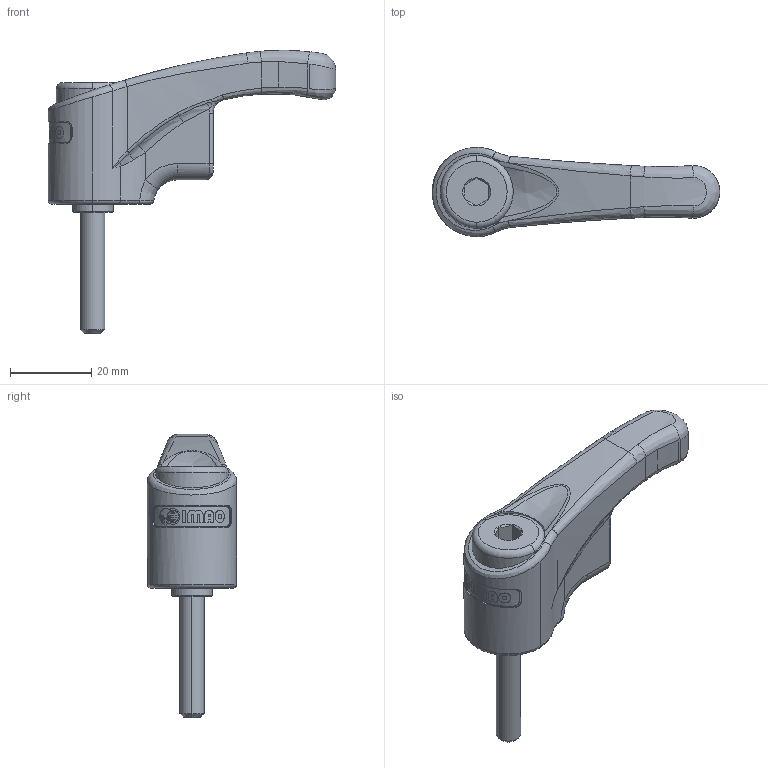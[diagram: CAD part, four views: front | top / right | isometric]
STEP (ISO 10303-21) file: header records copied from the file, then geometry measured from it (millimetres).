
FILE_DESCRIPTION (( 'STEP AP203' ), '1' );
FILE_NAME ('atcl6x30-og.STEP', '2021-10-21T07:38:16', ( '' ), ( '' ), 'SwSTEP 2.0', 'SolidWorks 2020', '' );
FILE_SCHEMA (( 'CONFIG_CONTROL_DESIGN' ));
Length unit declared in the file: millimetre
Products named in the file (1): atcl6x30-og
Bounding box: 71 x 22 x 70 mm (x, y, z)
Volume: 23825.9 mm3; surface area: 6566.8 mm2
Topology: 1 solids, 1 shells, 280 faces, 684 edges, 426 vertices
Faces by surface type: plane 93, bspline 86, cylinder 68, cone 20, torus 13
Entity records: 13143 total; most frequent: CARTESIAN_POINT 7247, ORIENTED_EDGE 1356, DIRECTION 958, EDGE_CURVE 678, VERTEX_POINT 426, AXIS2_PLACEMENT_3D 344, EDGE_LOOP 306, ADVANCED_FACE 280
